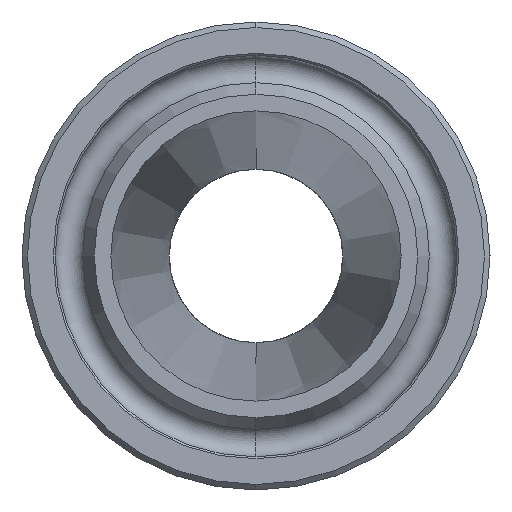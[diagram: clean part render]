
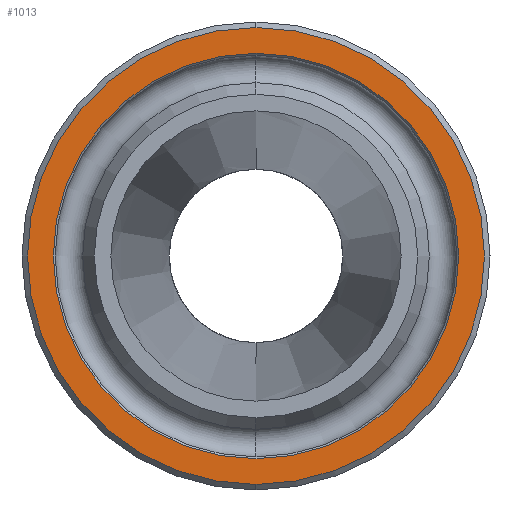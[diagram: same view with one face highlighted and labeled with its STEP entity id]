
A CAD part, left-side view. The second image highlights one B-rep face of the part: STEP entity #1013.
In plain terms, the highlighted planar face has unit normal (-1, 0, 0).
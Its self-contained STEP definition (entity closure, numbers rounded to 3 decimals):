
#12 = DIRECTION ( 'NONE',  ( 1., 0., 0. ) ) ;
#43 = AXIS2_PLACEMENT_3D ( 'NONE', #288, #296, #291 ) ;
#69 = AXIS2_PLACEMENT_3D ( 'NONE', #997, #657, #543 ) ;
#96 = AXIS2_PLACEMENT_3D ( 'NONE', #1253, #12, #645 ) ;
#114 = DIRECTION ( 'NONE',  ( 0., 0., -1. ) ) ;
#186 = EDGE_LOOP ( 'NONE', ( #800, #950 ) ) ;
#198 = FACE_OUTER_BOUND ( 'NONE', #501, .T. ) ;
#268 = CARTESIAN_POINT ( 'NONE',  ( -88.495, 0., 11. ) ) ;
#288 = CARTESIAN_POINT ( 'NONE',  ( -88.495, 0., 0. ) ) ;
#291 = DIRECTION ( 'NONE',  ( 0., 0., -1. ) ) ;
#296 = DIRECTION ( 'NONE',  ( 1., 0., 0. ) ) ;
#454 = CARTESIAN_POINT ( 'NONE',  ( -88.495, 0., 12.4 ) ) ;
#501 = EDGE_LOOP ( 'NONE', ( #1084, #1224 ) ) ;
#543 = DIRECTION ( 'NONE',  ( 0., 0., 1. ) ) ;
#575 = FACE_BOUND ( 'NONE', #186, .T. ) ;
#645 = DIRECTION ( 'NONE',  ( 0., 0., 1. ) ) ;
#652 = VERTEX_POINT ( 'NONE', #454 ) ;
#657 = DIRECTION ( 'NONE',  ( -1., 0., 0. ) ) ;
#674 = PLANE ( 'NONE',  #69 ) ;
#712 = AXIS2_PLACEMENT_3D ( 'NONE', #1151, #1157, #1232 ) ;
#742 = CIRCLE ( 'NONE', #43, 12.4 ) ;
#789 = AXIS2_PLACEMENT_3D ( 'NONE', #1453, #1462, #114 ) ;
#800 = ORIENTED_EDGE ( 'NONE', *, *, #912, .T. ) ;
#810 = VERTEX_POINT ( 'NONE', #1124 ) ;
#853 = EDGE_CURVE ( 'NONE', #810, #1203, #1285, .T. ) ;
#860 = CIRCLE ( 'NONE', #789, 12.4 ) ;
#893 = VERTEX_POINT ( 'NONE', #1283 ) ;
#912 = EDGE_CURVE ( 'NONE', #1203, #810, #1284, .T. ) ;
#930 = EDGE_CURVE ( 'NONE', #652, #893, #860, .T. ) ;
#950 = ORIENTED_EDGE ( 'NONE', *, *, #853, .T. ) ;
#997 = CARTESIAN_POINT ( 'NONE',  ( -88.495, 12.4, 0. ) ) ;
#1013 = ADVANCED_FACE ( 'NONE', ( #575, #198 ), #674, .T. ) ;
#1084 = ORIENTED_EDGE ( 'NONE', *, *, #1198, .F. ) ;
#1124 = CARTESIAN_POINT ( 'NONE',  ( -88.495, 0., -11. ) ) ;
#1151 = CARTESIAN_POINT ( 'NONE',  ( -88.495, 0., 0. ) ) ;
#1157 = DIRECTION ( 'NONE',  ( 1., 0., 0. ) ) ;
#1198 = EDGE_CURVE ( 'NONE', #893, #652, #742, .T. ) ;
#1203 = VERTEX_POINT ( 'NONE', #268 ) ;
#1224 = ORIENTED_EDGE ( 'NONE', *, *, #930, .F. ) ;
#1232 = DIRECTION ( 'NONE',  ( 0., 0., 1. ) ) ;
#1253 = CARTESIAN_POINT ( 'NONE',  ( -88.495, 0., 0. ) ) ;
#1283 = CARTESIAN_POINT ( 'NONE',  ( -88.495, 0., -12.4 ) ) ;
#1284 = CIRCLE ( 'NONE', #712, 11. ) ;
#1285 = CIRCLE ( 'NONE', #96, 11. ) ;
#1453 = CARTESIAN_POINT ( 'NONE',  ( -88.495, 0., 0. ) ) ;
#1462 = DIRECTION ( 'NONE',  ( 1., 0., 0. ) ) ;
